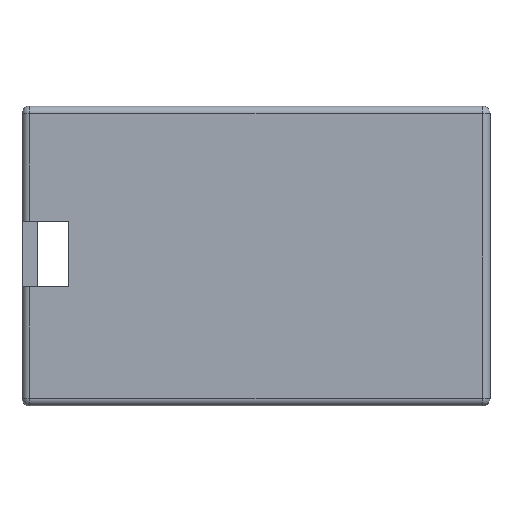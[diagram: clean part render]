
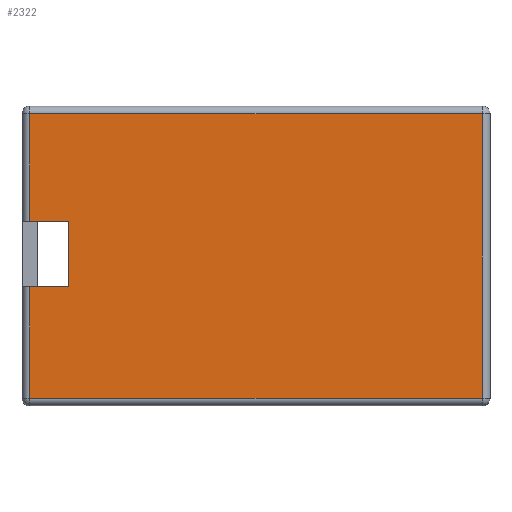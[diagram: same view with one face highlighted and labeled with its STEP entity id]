
A CAD part, front view. The second image highlights one B-rep face of the part: STEP entity #2322.
In plain terms, the highlighted planar face has unit normal (0, -1, 0).
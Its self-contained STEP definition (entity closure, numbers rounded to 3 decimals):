
#214=FACE_OUTER_BOUND('',#353,.T.);
#353=EDGE_LOOP('',(#1876,#1877,#1878,#1879,#1880,#1881,#1882,#1883));
#585=LINE('',#3725,#842);
#598=LINE('',#3758,#855);
#627=LINE('',#3833,#884);
#628=LINE('',#3838,#885);
#629=LINE('',#3839,#886);
#630=LINE('',#3841,#887);
#631=LINE('',#3843,#888);
#632=LINE('',#3844,#889);
#842=VECTOR('',#2948,10.);
#855=VECTOR('',#2977,10.);
#884=VECTOR('',#3038,10.);
#885=VECTOR('',#3045,10.);
#886=VECTOR('',#3046,10.);
#887=VECTOR('',#3047,10.);
#888=VECTOR('',#3048,10.);
#889=VECTOR('',#3049,10.);
#1101=VERTEX_POINT('',#3722);
#1102=VERTEX_POINT('',#3724);
#1113=VERTEX_POINT('',#3755);
#1114=VERTEX_POINT('',#3757);
#1144=VERTEX_POINT('',#3831);
#1145=VERTEX_POINT('',#3837);
#1146=VERTEX_POINT('',#3840);
#1147=VERTEX_POINT('',#3842);
#1364=EDGE_CURVE('',#1102,#1101,#585,.T.);
#1381=EDGE_CURVE('',#1113,#1114,#598,.T.);
#1420=EDGE_CURVE('',#1144,#1101,#627,.T.);
#1422=EDGE_CURVE('',#1145,#1113,#628,.T.);
#1423=EDGE_CURVE('',#1145,#1102,#629,.T.);
#1424=EDGE_CURVE('',#1146,#1144,#630,.T.);
#1425=EDGE_CURVE('',#1147,#1146,#631,.T.);
#1426=EDGE_CURVE('',#1114,#1147,#632,.T.);
#1876=ORIENTED_EDGE('',*,*,#1381,.F.);
#1877=ORIENTED_EDGE('',*,*,#1422,.F.);
#1878=ORIENTED_EDGE('',*,*,#1423,.T.);
#1879=ORIENTED_EDGE('',*,*,#1364,.T.);
#1880=ORIENTED_EDGE('',*,*,#1420,.F.);
#1881=ORIENTED_EDGE('',*,*,#1424,.F.);
#1882=ORIENTED_EDGE('',*,*,#1425,.F.);
#1883=ORIENTED_EDGE('',*,*,#1426,.F.);
#2217=PLANE('',#2515);
#2322=ADVANCED_FACE('',(#214),#2217,.F.);
#2515=AXIS2_PLACEMENT_3D('',#3836,#3043,#3044);
#2948=DIRECTION('',(-1.,0.,0.));
#2977=DIRECTION('',(0.,0.,1.));
#3038=DIRECTION('',(0.,0.,1.));
#3043=DIRECTION('center_axis',(0.,1.,0.));
#3044=DIRECTION('ref_axis',(1.,0.,0.));
#3045=DIRECTION('',(-1.,0.,0.));
#3046=DIRECTION('',(0.,0.,-1.));
#3047=DIRECTION('',(-1.,0.,0.));
#3048=DIRECTION('',(0.,0.,-1.));
#3049=DIRECTION('',(1.,0.,0.));
#3722=CARTESIAN_POINT('',(-114.2,-6.,101.5));
#3724=CARTESIAN_POINT('',(-106.5,-6.,101.5));
#3725=CARTESIAN_POINT('',(-112.2,-6.,101.5));
#3755=CARTESIAN_POINT('',(-114.2,-6.,114.5));
#3757=CARTESIAN_POINT('',(-114.2,-6.,135.95));
#3758=CARTESIAN_POINT('',(-114.2,-6.,92.9));
#3831=CARTESIAN_POINT('',(-114.2,-6.,79.3));
#3833=CARTESIAN_POINT('',(-114.2,-6.,92.9));
#3836=CARTESIAN_POINT('Origin',(-67.,-6.,108.));
#3837=CARTESIAN_POINT('',(-106.5,-6.,114.5));
#3838=CARTESIAN_POINT('',(-112.2,-6.,114.5));
#3839=CARTESIAN_POINT('',(-106.5,-6.,103.25));
#3840=CARTESIAN_POINT('',(-24.1,-6.,79.3));
#3841=CARTESIAN_POINT('',(-44.8,-6.,79.3));
#3842=CARTESIAN_POINT('',(-24.1,-6.,135.95));
#3843=CARTESIAN_POINT('',(-24.1,-6.,104.));
#3844=CARTESIAN_POINT('',(-46.,-6.,135.95));
